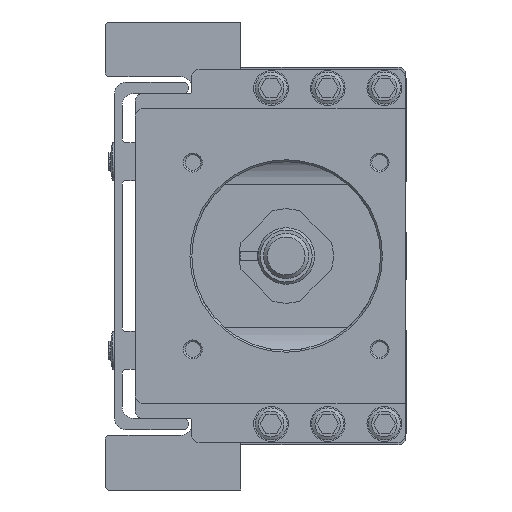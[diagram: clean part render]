
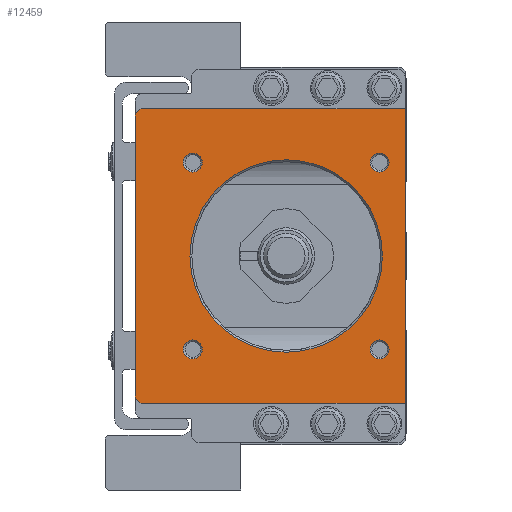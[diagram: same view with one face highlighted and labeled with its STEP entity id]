
A CAD part, left-side view. The second image highlights one B-rep face of the part: STEP entity #12459.
In plain terms, the highlighted planar face has unit normal (-1, 0, 0).
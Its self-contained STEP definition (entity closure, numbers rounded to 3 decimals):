
#353=LINE('',#17995,#1579);
#502=LINE('',#18496,#1728);
#765=LINE('',#19246,#1991);
#766=LINE('',#19248,#1992);
#1579=VECTOR('',#14318,1000.);
#1728=VECTOR('',#14635,1000.);
#1991=VECTOR('',#15394,1000.);
#1992=VECTOR('',#15397,1000.);
#3791=ORIENTED_EDGE('',*,*,#6762,.T.);
#3792=ORIENTED_EDGE('',*,*,#6763,.T.);
#3793=ORIENTED_EDGE('',*,*,#6764,.T.);
#3794=ORIENTED_EDGE('',*,*,#6765,.T.);
#3795=ORIENTED_EDGE('',*,*,#6766,.T.);
#3796=ORIENTED_EDGE('',*,*,#6756,.F.);
#3797=ORIENTED_EDGE('',*,*,#6183,.F.);
#3798=ORIENTED_EDGE('',*,*,#6761,.F.);
#3799=ORIENTED_EDGE('',*,*,#6759,.F.);
#3800=ORIENTED_EDGE('',*,*,#6396,.F.);
#3801=ORIENTED_EDGE('',*,*,#6758,.F.);
#6183=EDGE_CURVE('',#7870,#7871,#353,.T.);
#6396=EDGE_CURVE('',#8063,#8064,#502,.T.);
#6756=EDGE_CURVE('',#7871,#8302,#9238,.T.);
#6758=EDGE_CURVE('',#8302,#8063,#765,.T.);
#6759=EDGE_CURVE('',#8064,#8303,#766,.T.);
#6761=EDGE_CURVE('',#8303,#7870,#9239,.T.);
#6762=EDGE_CURVE('',#8304,#8304,#9240,.T.);
#6763=EDGE_CURVE('',#8305,#8305,#9241,.T.);
#6764=EDGE_CURVE('',#8306,#8306,#9242,.T.);
#6765=EDGE_CURVE('',#8307,#8307,#9243,.T.);
#6766=EDGE_CURVE('',#8308,#8308,#9244,.T.);
#7870=VERTEX_POINT('',#17994);
#7871=VERTEX_POINT('',#17996);
#8063=VERTEX_POINT('',#18495);
#8064=VERTEX_POINT('',#18497);
#8302=VERTEX_POINT('',#19243);
#8303=VERTEX_POINT('',#19249);
#8304=VERTEX_POINT('',#19255);
#8305=VERTEX_POINT('',#19257);
#8306=VERTEX_POINT('',#19259);
#8307=VERTEX_POINT('',#19261);
#8308=VERTEX_POINT('',#19263);
#9238=CIRCLE('',#13408,2.);
#9239=CIRCLE('',#13412,2.);
#9240=CIRCLE('',#13414,2.5);
#9241=CIRCLE('',#13415,2.5);
#9242=CIRCLE('',#13416,2.5);
#9243=CIRCLE('',#13417,2.5);
#9244=CIRCLE('',#13418,25.5);
#9803=EDGE_LOOP('',(#3791));
#9804=EDGE_LOOP('',(#3792));
#9805=EDGE_LOOP('',(#3793));
#9806=EDGE_LOOP('',(#3794));
#9807=EDGE_LOOP('',(#3795));
#9808=EDGE_LOOP('',(#3796,#3797,#3798,#3799,#3800,#3801));
#10929=FACE_BOUND('',#9803,.T.);
#10930=FACE_BOUND('',#9804,.T.);
#10931=FACE_BOUND('',#9805,.T.);
#10932=FACE_BOUND('',#9806,.T.);
#10933=FACE_BOUND('',#9807,.T.);
#10934=FACE_BOUND('',#9808,.T.);
#11920=PLANE('',#13413);
#12459=ADVANCED_FACE('',(#10929,#10930,#10931,#10932,#10933,#10934),#11920,
 .F.);
#13408=AXIS2_PLACEMENT_3D('',#19242,#15389,#15390);
#13412=AXIS2_PLACEMENT_3D('',#19252,#15401,#15402);
#13413=AXIS2_PLACEMENT_3D('',#19253,#15403,#15404);
#13414=AXIS2_PLACEMENT_3D('',#19254,#15405,#15406);
#13415=AXIS2_PLACEMENT_3D('',#19256,#15407,#15408);
#13416=AXIS2_PLACEMENT_3D('',#19258,#15409,#15410);
#13417=AXIS2_PLACEMENT_3D('',#19260,#15411,#15412);
#13418=AXIS2_PLACEMENT_3D('',#19262,#15413,#15414);
#14318=DIRECTION('',(0.,0.,1.));
#14635=DIRECTION('',(0.,0.,-1.));
#15389=DIRECTION('',(1.,0.,0.));
#15390=DIRECTION('',(0.,0.,-1.));
#15394=DIRECTION('',(0.,-1.,0.));
#15397=DIRECTION('',(0.,1.,0.));
#15401=DIRECTION('',(1.,0.,0.));
#15402=DIRECTION('',(0.,0.,-1.));
#15403=DIRECTION('',(1.,0.,0.));
#15404=DIRECTION('',(0.,0.,-1.));
#15405=DIRECTION('',(1.,0.,0.));
#15406=DIRECTION('',(0.,0.,-1.));
#15407=DIRECTION('',(1.,0.,0.));
#15408=DIRECTION('',(0.,0.,-1.));
#15409=DIRECTION('',(1.,0.,0.));
#15410=DIRECTION('',(0.,0.,-1.));
#15411=DIRECTION('',(1.,0.,0.));
#15412=DIRECTION('',(0.,0.,-1.));
#15413=DIRECTION('',(1.,0.,0.));
#15414=DIRECTION('',(0.,0.,-1.));
#17994=CARTESIAN_POINT('',(-94.,40.,-37.));
#17995=CARTESIAN_POINT('',(-94.,40.,-37.));
#17996=CARTESIAN_POINT('',(-94.,40.,37.));
#18495=CARTESIAN_POINT('',(-94.,-31.5,39.));
#18496=CARTESIAN_POINT('',(-94.,-31.5,39.));
#18497=CARTESIAN_POINT('',(-94.,-31.5,-39.));
#19242=CARTESIAN_POINT('',(-94.,38.,37.));
#19243=CARTESIAN_POINT('',(-94.,38.,39.));
#19246=CARTESIAN_POINT('',(-94.,38.,39.));
#19248=CARTESIAN_POINT('',(-94.,-31.5,-39.));
#19249=CARTESIAN_POINT('',(-94.,38.,-39.));
#19252=CARTESIAN_POINT('',(-94.,38.,-37.));
#19253=CARTESIAN_POINT('',(-94.,38.,37.));
#19254=CARTESIAN_POINT('',(-94.,24.749,-24.749));
#19255=CARTESIAN_POINT('',(-94.,24.749,-27.249));
#19256=CARTESIAN_POINT('',(-94.,-24.749,24.749));
#19257=CARTESIAN_POINT('',(-94.,-24.749,22.249));
#19258=CARTESIAN_POINT('',(-94.,-24.749,-24.749));
#19259=CARTESIAN_POINT('',(-94.,-24.749,-27.249));
#19260=CARTESIAN_POINT('',(-94.,24.749,24.749));
#19261=CARTESIAN_POINT('',(-94.,24.749,22.249));
#19262=CARTESIAN_POINT('',(-94.,0.,0.));
#19263=CARTESIAN_POINT('',(-94.,0.,-25.5));
